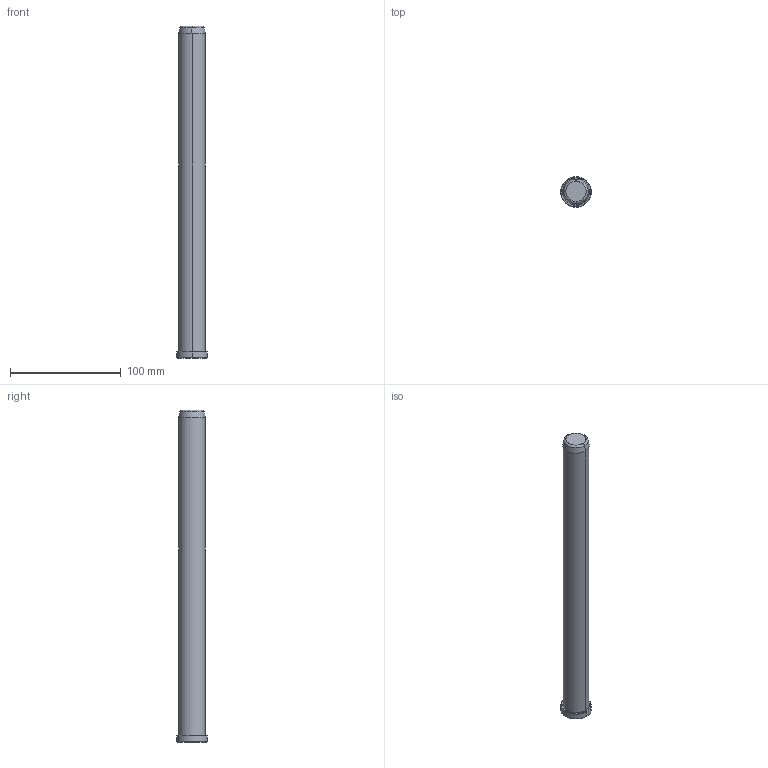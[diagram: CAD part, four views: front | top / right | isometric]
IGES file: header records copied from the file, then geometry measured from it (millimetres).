
Start section: START RECORD GO HERE.
Global section: file name: B81824300.igs; native system: DASSAULT SYSTEMES CATIA V5 R20 - www.3ds.com; preprocessor: CATIA Version 5 Release 20 ; author: Utente; organization: NB04-ASUS; date: 20200419.172111; units: millimetre
Bounding box: 28 x 28 x 300 mm (x, y, z)
Surface area: 23727 mm2 (no closed solid volume)
Topology: 0 solids, 0 shells, 17 faces, 68 edges, 68 vertices
Faces by surface type: revolution 14, plane 3
